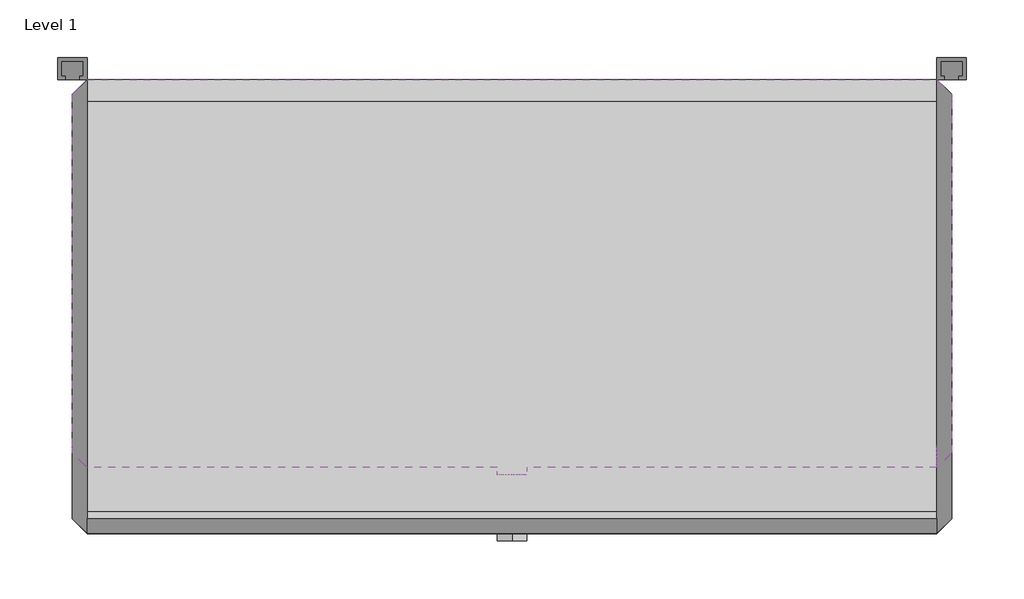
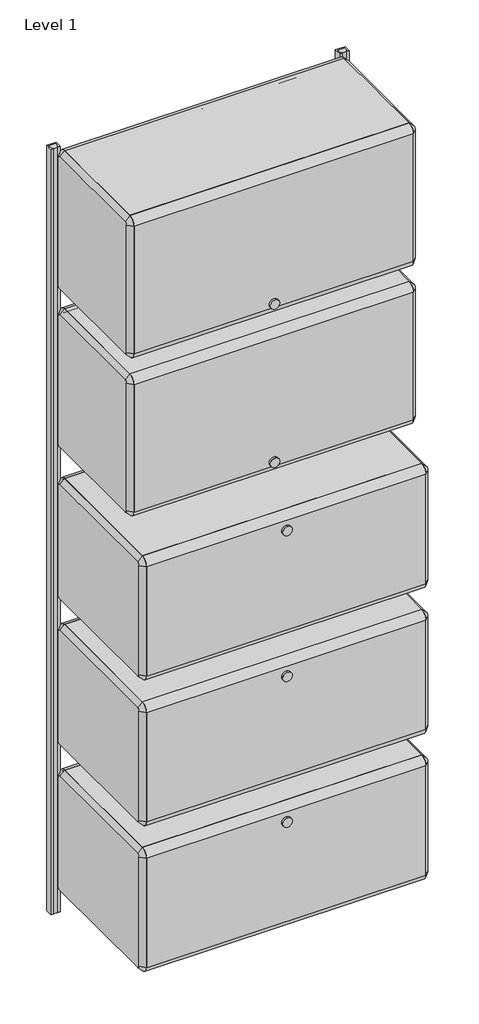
# One storey: 7 furniture elements.
"""IFC4 building model written with IfcOpenShell, lengths in millimetres."""

import ifcopenshell
import ifcopenshell.guid

model = None  # the IFC model being written
_history = None  # IfcOwnerHistory: only IFC2X3 demands one
_inside = {}  # id of a spatial element -> (the spatial element, [elements in it])
_under = {}  # id of a project, library or spatial element -> (it, [spatial elements below it])
_declared = {}  # id of a project -> (the project, [libraries it declares])
_typed = {}  # id of a type object -> (the type object, [elements of that type])
_made_of = {}  # id of a material, layer set ... -> (it, [elements and type objects made of it])


def new_model(schema):
    """Start an empty IFC model of exactly this schema.

    Asked for "IFC4X3", IfcOpenShell would pick the latest addendum, in which some entities
    have other attributes; the version numbers below select the first issue.
    IFC2X3 requires an IfcOwnerHistory on every rooted entity: one is made here for all.
    """
    global model, _history
    if schema == "IFC4X3":
        model = ifcopenshell.file(schema_version=(4, 3, 0, 0))
    else:
        model = ifcopenshell.file(schema=schema)
    _inside.clear()
    _under.clear()
    _declared.clear()
    _typed.clear()
    _made_of.clear()
    _history = None
    if model.schema == "IFC2X3":
        org = make("IfcOrganization", Name="unknown")
        user = make(
            "IfcPersonAndOrganization",
            ThePerson=make("IfcPerson", FamilyName="unknown"),
            TheOrganization=org,
        )
        app = make(
            "IfcApplication",
            ApplicationDeveloper=org,
            Version="unknown",
            ApplicationFullName="unknown",
            ApplicationIdentifier="unknown",
        )
        _history = make(
            "IfcOwnerHistory",
            OwningUser=user,
            OwningApplication=app,
            ChangeAction="ADDED",
            CreationDate=0,
        )
    return model


def make(cls, **values):
    """One entity of the class cls with the attributes given. An attribute that is None is left unset."""
    return model.create_entity(
        cls, **{name: value for name, value in values.items() if value is not None}
    )


def rooted(cls, **values):
    """An entity with a GlobalId (a new one), such as an element, a storey or a relation."""
    return make(cls, GlobalId=ifcopenshell.guid.new(), OwnerHistory=_history, **values)


def si_unit(unit_type, name, prefix=None):
    """IfcSIUnit, for example si_unit("LENGTHUNIT", "METRE", prefix="MILLI")."""
    return make("IfcSIUnit", UnitType=unit_type, Prefix=prefix, Name=name)


def assignment(units):
    """IfcUnitAssignment: the units of a project."""
    return None if units is None else make("IfcUnitAssignment", Units=units)


def point(xyz):
    """IfcCartesianPoint."""
    return None if xyz is None else make("IfcCartesianPoint", Coordinates=xyz)


def direction(xyz):
    """IfcDirection."""
    return None if xyz is None else make("IfcDirection", DirectionRatios=xyz)


def frame(location, z_axis=None, x_axis=None):
    """IfcAxis2Placement3D, a coordinate frame: its origin and axes. An axis left out is left unset."""
    return make(
        "IfcAxis2Placement3D",
        Location=point(location),
        Axis=direction(z_axis),
        RefDirection=direction(x_axis),
    )


def frame_2d(location, x_axis=None):
    """IfcAxis2Placement2D, a coordinate frame in the plane: its origin and x axis."""
    return make(
        "IfcAxis2Placement2D", Location=point(location), RefDirection=direction(x_axis)
    )


def origin():
    """The frame at (0, 0, 0) with its axes left unset."""
    return frame((0.0, 0.0, 0.0))


def place(relative_to, where):
    """IfcLocalPlacement: puts the frame where relative to a parent placement (None: the world)."""
    return make(
        "IfcLocalPlacement", PlacementRelTo=relative_to, RelativePlacement=where
    )


def context(
    kind, dimensions, precision=None, world=None, true_north=None, identifier=None
):
    """IfcGeometricRepresentationContext, for example the 3D "Model" context."""
    return make(
        "IfcGeometricRepresentationContext",
        ContextIdentifier=identifier,
        ContextType=kind,
        CoordinateSpaceDimension=dimensions,
        Precision=precision,
        WorldCoordinateSystem=world,
        TrueNorth=true_north,
    )


def project(units=None, contexts=None):
    """IfcProject with its units and contexts."""
    return rooted(
        "IfcProject",
        Name="project",
        RepresentationContexts=contexts,
        UnitsInContext=assignment(units),
    )


def spatial(cls, under=None, at=None, **own):
    """A site, building, storey or space (cls), placed at a placement, below another one or the project."""
    s = rooted(cls, ObjectPlacement=at, **own)
    if under is not None:
        _under.setdefault(under.id(), (under, []))[1].append(s)
    return s


def polyline(points):
    """IfcPolyline through the points."""
    return make("IfcPolyline", Points=[point(p) for p in points])


def circle_curve(where, radius):
    """IfcCircle in the frame where."""
    return make("IfcCircle", Position=where, Radius=radius)


def trimmed(basis, trim1, trim2, sense, master):
    """IfcTrimmedCurve: the piece of a basis curve between two trims."""
    return make(
        "IfcTrimmedCurve",
        BasisCurve=basis,
        Trim1=trim1,
        Trim2=trim2,
        SenseAgreement=sense,
        MasterRepresentation=master,
    )


def segment(curve, same_sense, transition):
    """IfcCompositeCurveSegment."""
    return make(
        "IfcCompositeCurveSegment",
        Transition=transition,
        SameSense=same_sense,
        ParentCurve=curve,
    )


def composite_curve(segments, self_intersect=None):
    """IfcCompositeCurve: segments joined end to end."""
    return make("IfcCompositeCurve", Segments=segments, SelfIntersect=self_intersect)


def outline(outer, holes=None, kind="AREA"):
    """IfcArbitraryClosedProfileDef: a profile drawn as a closed curve; with holes, ...WithVoids."""
    if holes is None:
        return make("IfcArbitraryClosedProfileDef", ProfileType=kind, OuterCurve=outer)
    return make(
        "IfcArbitraryProfileDefWithVoids",
        ProfileType=kind,
        OuterCurve=outer,
        InnerCurves=holes,
    )


def extrude(swept, where, along, depth):
    """IfcExtrudedAreaSolid: the profile swept, set in the frame where, extruded along a direction by depth."""
    return make(
        "IfcExtrudedAreaSolid",
        SweptArea=swept,
        Position=where,
        ExtrudedDirection=direction(along),
        Depth=depth,
    )


def shape(context_of_items, identifier, shape_type, items):
    """IfcShapeRepresentation: the items that make up one representation, for example the "Body"."""
    return make(
        "IfcShapeRepresentation",
        ContextOfItems=context_of_items,
        RepresentationIdentifier=identifier,
        RepresentationType=shape_type,
        Items=items,
    )


def source(mapping_origin, context_of_items, identifier, shape_type, items):
    """IfcRepresentationMap: a shape defined once, which mapped items show again and again."""
    return make(
        "IfcRepresentationMap",
        MappingOrigin=mapping_origin,
        MappedRepresentation=shape(context_of_items, identifier, shape_type, items),
    )


def transform(
    local_origin,
    x_axis=None,
    y_axis=None,
    z_axis=None,
    scale=None,
    scale2=None,
    scale3=None,
    uniform=True,
):
    """IfcCartesianTransformationOperator3D, or its non-uniform kind. x_axis, y_axis, z_axis: its Axis1, 2, 3."""
    if uniform:
        return make(
            "IfcCartesianTransformationOperator3D",
            Axis1=direction(x_axis),
            Axis2=direction(y_axis),
            LocalOrigin=point(local_origin),
            Scale=scale,
            Axis3=direction(z_axis),
        )
    return make(
        "IfcCartesianTransformationOperator3DnonUniform",
        Axis1=direction(x_axis),
        Axis2=direction(y_axis),
        LocalOrigin=point(local_origin),
        Scale=scale,
        Axis3=direction(z_axis),
        Scale2=scale2,
        Scale3=scale3,
    )


def mapped(mapping_source, mapping_target):
    """IfcMappedItem: shows the shape of a source again, moved by a transform."""
    return make(
        "IfcMappedItem", MappingSource=mapping_source, MappingTarget=mapping_target
    )


def made_of(thing, what):
    """Note that an element or type object is made of a material, layer set ...; save() writes the relation."""
    if what is not None:
        _made_of.setdefault(what.id(), (what, []))[1].append(thing)
    return thing


def element(
    cls,
    number,
    at=None,
    inside=None,
    cuts=None,
    type_object=None,
    material=None,
    context=None,
    identifier="Body",
    shape_type=None,
    held_by="IfcProductDefinitionShape",
    body=None,
    shapes=None,
    **own,
):
    """One element of the class cls, such as IfcWall. Its Tag is "e" and its number.

    at: its placement. inside: the storey or other place that contains it. cuts: it is an
    opening in that element (IfcRelVoidsElement). A single representation is given by context,
    identifier, shape_type and body (its items); several are given by shapes. held_by: the class
    of the entity that holds the representations. save() writes the other relations.
    """
    e = rooted(cls, Tag="e%d" % number, ObjectPlacement=at, **own)
    if body is not None:
        shapes = [shape(context, identifier, shape_type, body)]
    if shapes is not None:
        e.Representation = make(held_by, Representations=shapes)
    if inside is not None:
        _inside.setdefault(inside.id(), (inside, []))[1].append(e)
    if cuts is not None:
        rooted(
            "IfcRelVoidsElement", RelatingBuildingElement=cuts, RelatedOpeningElement=e
        )
    if type_object is not None:
        _typed.setdefault(type_object.id(), (type_object, []))[1].append(e)
    return made_of(e, material)


def aggregate(whole, parts):
    """IfcRelAggregates: a whole, such as a stair, and the parts it consists of."""
    return rooted("IfcRelAggregates", RelatingObject=whole, RelatedObjects=parts)


def save(model, path):
    """Write the relations noted so far, then the file.

    IfcRelAggregates (storeys below a building ...), IfcRelContainedInSpatialStructure (elements
    in a storey), IfcRelDefinesByType, IfcRelAssociatesMaterial and IfcRelDeclares: one each for
    every whole, place, type object, material and project.
    """
    for whole, parts in _under.values():
        aggregate(whole, parts)
    for where, things in _inside.values():
        rooted(
            "IfcRelContainedInSpatialStructure",
            RelatedElements=things,
            RelatingStructure=where,
        )
    for kind, things in _typed.values():
        rooted("IfcRelDefinesByType", RelatedObjects=things, RelatingType=kind)
    for what, things in _made_of.values():
        rooted("IfcRelAssociatesMaterial", RelatedObjects=things, RelatingMaterial=what)
    for by, libraries in _declared.values():
        rooted("IfcRelDeclares", RelatingContext=by, RelatedDefinitions=libraries)
    model.write(path)


def plane_surface(at):
    """IfcPlane: the flat surface through the origin of the frame at, square to its z axis."""
    return make("IfcPlane", Position=at)


def revolved_surface(curve, axis_point, axis_direction):
    """IfcSurfaceOfRevolution: the curve turned about the line through axis_point along axis_direction."""
    return make(
        "IfcSurfaceOfRevolution",
        SweptCurve=make("IfcArbitraryOpenProfileDef", ProfileType="CURVE", Curve=curve),
        AxisPosition=make("IfcAxis1Placement", Location=point(axis_point), Axis=direction(axis_direction)),
    )


def advanced_brep(points, edges, surfaces, faces):
    """IfcAdvancedBrep: a solid bounded by faces that lie on surfaces and meet in shared edges.

    An edge is (start, end): straight between two places in points (the first is 0);
    or (start, end, curve); or (start, end, curve, False) where it runs against its curve.
    A face is (place in surfaces, loops), or (place, loops, False) where it looks against
    its surface's normal. A loop lists edges by number (the first is 1), with a minus sign
    where the edge is run from its end to its start. The first loop is the outer one.
    """
    corners = [point(p) for p in points]
    vertices = [make("IfcVertexPoint", VertexGeometry=c) for c in corners]
    made = []
    for start, end, *more in edges:
        made.append(
            make(
                "IfcEdgeCurve",
                EdgeStart=vertices[start],
                EdgeEnd=vertices[end],
                EdgeGeometry=more[0] if more else make("IfcPolyline", Points=[corners[start], corners[end]]),
                SameSense=more[1] if len(more) > 1 else True,
            )
        )
    hull = []
    for where, loops, *sense in faces:
        bounds = []
        for j, loop in enumerate(loops):
            ring = [make("IfcOrientedEdge", EdgeElement=made[abs(k) - 1], Orientation=k > 0) for k in loop]
            bounds.append(
                make(
                    "IfcFaceOuterBound" if j == 0 else "IfcFaceBound",
                    Bound=make("IfcEdgeLoop", EdgeList=ring),
                    Orientation=True,
                )
            )
        hull.append(make("IfcAdvancedFace", Bounds=bounds, FaceSurface=surfaces[where], SameSense=sense[0] if sense else True))
    return make("IfcAdvancedBrep", Outer=make("IfcClosedShell", CfsFaces=hull))


def furniture_2b6507ba(model_context):
    return source(origin(), model_context, "Body", "SolidModel", [
        extrude(outline(composite_curve([segment(polyline([(-136.525, 1781.556), (-136.525, 1794.256), (161.925, 1794.256)]), True, "CONTINUOUS"), segment(trimmed(circle_curve(frame_2d((161.925, 1775.206)), 19.05), [point((161.925, 1794.256))], [point((180.975, 1775.206))], False, "CARTESIAN"), True, "CONTINUOUS"), segment(polyline([(180.975, 1775.206), (168.275, 1775.206)]), True, "CONTINUOUS"), segment(trimmed(circle_curve(frame_2d((161.925, 1775.206)), 6.35), [point((168.275, 1775.206))], [point((161.925, 1781.556))], True, "CARTESIAN"), True, "CONTINUOUS"), segment(polyline([(161.925, 1781.556), (-136.525, 1781.556)]), True, "CONTINUOUS")], self_intersect=False)), frame((-368.3, 0.0, 0.0), z_axis=(1.0, 0.0, 0.0), x_axis=(0.0, 1.0, 0.0)), (0.0, 0.0, 1.0), 736.6),
        extrude(outline(composite_curve([segment(trimmed(circle_curve(frame_2d((-136.525, 1775.206)), 19.05), [point((-155.575, 1775.206))], [point((-136.525, 1794.256))], False, "CARTESIAN"), True, "CONTINUOUS"), segment(polyline([(-136.525, 1794.256), (-136.525, 1781.556)]), True, "CONTINUOUS"), segment(trimmed(circle_curve(frame_2d((-136.525, 1775.206)), 6.35), [point((-136.525, 1781.556))], [point((-142.875, 1775.206))], True, "CARTESIAN"), True, "CONTINUOUS"), segment(polyline([(-142.875, 1775.206), (-142.875, 1419.606)]), True, "CONTINUOUS"), segment(trimmed(circle_curve(frame_2d((-136.525, 1419.606)), 6.35), [point((-142.875, 1419.606))], [point((-136.525, 1413.256))], True, "CARTESIAN"), True, "CONTINUOUS"), segment(polyline([(-136.525, 1413.256), (-136.525, 1400.556)]), True, "CONTINUOUS"), segment(trimmed(circle_curve(frame_2d((-136.525, 1419.606)), 19.05), [point((-136.525, 1400.556))], [point((-155.575, 1419.606))], False, "CARTESIAN"), True, "CONTINUOUS"), segment(polyline([(-155.575, 1419.606), (-155.575, 1775.206)]), True, "CONTINUOUS")], self_intersect=False)), frame((-368.3, 0.0, 0.0), z_axis=(1.0, 0.0, 0.0), x_axis=(0.0, 1.0, 0.0)), (0.0, 0.0, 1.0), 736.6),
        extrude(outline(composite_curve([segment(trimmed(circle_curve(frame_2d((1432.2678906, 0.0201199)), 12.7253951), [point((1432.2678906, 12.745515))], [point((1432.2678906, -12.7052752))], False, "CARTESIAN"), True, "CONTINUOUS"), segment(trimmed(circle_curve(frame_2d((1432.2678906, 0.0201199)), 12.7253951), [point((1432.2678906, -12.7052752))], [point((1432.2678906, 12.745515))], False, "CARTESIAN"), True, "CONTINUOUS")], self_intersect=False)), frame((0.0, -161.925, 0.0), z_axis=(0.0, 1.0, 0.0), x_axis=(0.0, 0.0, 1.0)), (0.0, 0.0, 1.0), 6.35),
        extrude(outline(polyline([(-136.525, 1438.656), (161.925, 1438.656), (161.925, 1476.756), (174.625, 1476.756), (174.625, 1473.581), (165.1, 1473.581), (165.1, 1435.481), (-133.35, 1435.481), (-133.35, 1416.431), (-136.525, 1416.431), (-136.525, 1438.656)])), frame((-368.3, 0.0, 0.0), z_axis=(1.0, 0.0, 0.0), x_axis=(0.0, 1.0, 0.0)), (0.0, 0.0, 1.0), 736.6),
        advanced_brep(
        [(381.0, 161.925, 1781.556), (381.0, -136.525, 1781.556), (381.0, -142.875, 1775.206), (381.0, -142.875, 1419.606), (381.0, -136.525, 1413.256), (381.0, 161.925, 1413.256), (381.0, 168.275, 1419.606), (381.0, 168.275, 1775.206), (368.3, 161.925, 1794.256), (368.3, 180.975, 1775.206), (368.3, 180.975, 1419.606), (368.3, 161.925, 1400.556), (368.3, -136.525, 1400.556), (368.3, -155.575, 1419.606), (368.3, -155.575, 1775.206), (368.3, -136.525, 1794.256)],
        [
            (0, 1),
            (1, 2, circle_curve(frame((381.0, -136.525, 1775.206), z_axis=(1.0, 6.490807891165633e-12, -6.586731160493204e-12), x_axis=(6.586694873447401e-12, 0.0, 1.0)), 6.35)),
            (2, 3),
            (3, 4, circle_curve(frame((381.0, -136.525, 1419.606), z_axis=(1.0, 3.3746339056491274e-12, 3.3679725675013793e-12), x_axis=(3.3745997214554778e-12, -1.0, 0.0)), 6.35)),
            (4, 5),
            (5, 6, circle_curve(frame((381.0, 161.925, 1419.606), z_axis=(1.0, 3.378630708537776e-12, -3.3892888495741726e-12), x_axis=(-3.38935859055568e-12, 0.0, -1.0)), 6.35)),
            (6, 7),
            (7, 0, circle_curve(frame((381.0, 161.925, 1775.206), z_axis=(1.0, 6.482814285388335e-12, 6.3948846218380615e-12), x_axis=(-6.482754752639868e-12, 1.0, 0.0)), 6.35)),
            (8, 9, circle_curve(frame((368.3, 161.925, 1775.206), z_axis=(-1.0, -6.482814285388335e-12, -6.3948846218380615e-12), x_axis=(-6.482754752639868e-12, 1.0, 0.0)), 19.05)),
            (9, 10),
            (10, 11, circle_curve(frame((368.3, 161.925, 1419.606), z_axis=(-1.0, -3.378630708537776e-12, 3.3892888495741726e-12), x_axis=(-3.38935859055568e-12, 0.0, -1.0)), 19.05)),
            (11, 12),
            (12, 13, circle_curve(frame((368.3, -136.525, 1419.606), z_axis=(-1.0, -3.3746339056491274e-12, -3.3679725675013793e-12), x_axis=(3.3745997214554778e-12, -1.0, 0.0)), 19.05)),
            (13, 14),
            (14, 15, circle_curve(frame((368.3, -136.525, 1775.206), z_axis=(-1.0, -6.490807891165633e-12, 6.586731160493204e-12), x_axis=(6.586694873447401e-12, 0.0, 1.0)), 19.05)),
            (15, 8),
            (15, 1),
            (0, 8),
            (14, 2),
            (13, 3),
            (12, 4),
            (11, 5),
            (10, 6),
            (9, 7),
        ],
        [
            plane_surface(frame((381.0, 12.7, 1597.406), z_axis=(1.0, 0.0, 0.0), x_axis=(0.0, -1.0, 0.0))),
            plane_surface(frame((368.3, 12.7, 1597.406), z_axis=(-1.0, 0.0, 0.0), x_axis=(0.0, -1.0, 0.0))),
            plane_surface(frame((368.3, 12.7, 1794.256), z_axis=(0.707106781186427, 0.0, 0.7071067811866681), x_axis=(0.0, -1.0, 0.0))),
            revolved_surface(polyline([(381.00000000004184, -136.525, 1781.5559999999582), (368.3, -136.525, 1794.256)]), (387.35, -136.525, 1775.206), (-1.0, -6.490807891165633e-12, 6.586731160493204e-12)),
            plane_surface(frame((368.3, -155.575, 1597.406), z_axis=(0.7071067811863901, -0.7071067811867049, 0.0), x_axis=(0.0, 0.0, -1.0))),
            revolved_surface(polyline([(381.00000000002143, -142.8749999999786, 1419.606), (368.3, -155.575, 1419.606)]), (387.35, -136.525, 1419.606), (-1.0, -3.3746339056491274e-12, -3.3679725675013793e-12)),
            plane_surface(frame((368.3, 12.7, 1400.556), z_axis=(0.7071067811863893, 0.0, -0.7071067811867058), x_axis=(0.0, 1.0, 0.0))),
            revolved_surface(polyline([(381.0, 161.925, 1413.256), (368.29999999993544, 161.925, 1400.5559999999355)]), (387.35, 161.925, 1419.606), (-1.0, -3.378630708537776e-12, 3.3892888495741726e-12)),
            plane_surface(frame((368.3, 180.975, 1597.406), z_axis=(0.7071067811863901, 0.7071067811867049, 0.0), x_axis=(0.0, 0.0, 1.0))),
            revolved_surface(polyline([(381.0, 168.27500000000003, 1775.206), (368.2999999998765, 180.9750000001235, 1775.206)]), (387.35, 161.925, 1775.206), (-1.0, -6.482814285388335e-12, -6.3948846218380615e-12)),
        ],
        [
            (0, [[1, 2, 3, 4, 5, 6, 7, 8]]),
            (1, [[9, 10, 11, 12, 13, 14, 15, 16]]),
            (2, [[-16, 17, -1, 18]]),
            (3, [[-15, 19, -2, -17]]),
            (4, [[-14, 20, -3, -19]]),
            (5, [[-13, 21, -4, -20]]),
            (6, [[-12, 22, -5, -21]]),
            (7, [[-11, 23, -6, -22]]),
            (8, [[-10, 24, -7, -23]]),
            (9, [[-9, -18, -8, -24]]),
        ],
    ),
        advanced_brep(
        [(-381.0, -136.525, 1781.556), (-381.0, 161.925, 1781.556), (-381.0, 168.275, 1775.206), (-381.0, 168.275, 1419.606), (-381.0, 161.925, 1413.256), (-381.0, -136.525, 1413.256), (-381.0, -142.875, 1419.606), (-381.0, -142.875, 1775.206), (-368.3, -136.525, 1794.256), (-368.3, -155.575, 1775.206), (-368.3, -155.575, 1419.606), (-368.3, -136.525, 1400.556), (-368.3, 161.925, 1400.556), (-368.3, 180.975, 1419.606), (-368.3, 180.975, 1775.206), (-368.3, 161.925, 1794.256)],
        [
            (0, 1),
            (1, 2, circle_curve(frame((-381.0, 161.925, 1775.206), z_axis=(-1.0, 3.3653080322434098e-12, 3.453237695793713e-12), x_axis=(3.453261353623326e-12, 0.0, 1.0)), 6.35)),
            (2, 3),
            (3, 4, circle_curve(frame((-381.0, 161.925, 1419.606), z_axis=(-1.0, 0.0, 0.0), x_axis=(0.0, 1.0, 0.0)), 6.35)),
            (4, 5),
            (5, 6, circle_curve(frame((-381.0, -136.525, 1419.606), z_axis=(-1.0, 0.0, 0.0), x_axis=(0.0, 0.0, -1.0)), 6.35)),
            (6, 7),
            (7, 0, circle_curve(frame((-381.0, -136.525, 1775.206), z_axis=(-1.0, 3.3812952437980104e-12, -3.304023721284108e-12), x_axis=(-3.381351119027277e-12, -1.0, 0.0)), 6.35)),
            (8, 9, circle_curve(frame((-368.3, -136.525, 1775.206), z_axis=(1.0, -3.3812952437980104e-12, 3.304023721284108e-12), x_axis=(-3.381351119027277e-12, -1.0, 0.0)), 19.05)),
            (9, 10),
            (10, 11, circle_curve(frame((-368.3, -136.525, 1419.606), z_axis=(1.0, 0.0, 0.0), x_axis=(0.0, 0.0, -1.0)), 19.05)),
            (11, 12),
            (12, 13, circle_curve(frame((-368.3, 161.925, 1419.606), z_axis=(1.0, 0.0, 0.0), x_axis=(0.0, 1.0, 0.0)), 19.05)),
            (13, 14),
            (14, 15, circle_curve(frame((-368.3, 161.925, 1775.206), z_axis=(1.0, -3.3653080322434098e-12, -3.453237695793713e-12), x_axis=(3.453261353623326e-12, 0.0, 1.0)), 19.05)),
            (15, 8),
            (15, 1),
            (0, 8),
            (14, 2),
            (13, 3),
            (12, 4),
            (11, 5),
            (10, 6),
            (9, 7),
        ],
        [
            plane_surface(frame((-381.0, 12.7, 1597.406), z_axis=(-1.0, 0.0, 0.0), x_axis=(0.0, -1.0, 0.0))),
            plane_surface(frame((-368.3, 12.7, 1597.406), z_axis=(1.0, 0.0, 0.0), x_axis=(0.0, -1.0, 0.0))),
            plane_surface(frame((-368.3, 12.7, 1794.256), z_axis=(-0.7071067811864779, 0.0, 0.7071067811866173), x_axis=(0.0, 1.0, 0.0))),
            revolved_surface(polyline([(-381.0, 161.925, 1781.556), (-368.29999999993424, 161.925, 1794.2560000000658)]), (-387.35, 161.925, 1775.206), (1.0, -3.3653080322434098e-12, -3.453237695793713e-12)),
            plane_surface(frame((-368.3, 180.975, 1597.406), z_axis=(-0.7071067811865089, 0.7071067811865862, 0.0), x_axis=(0.0, 0.0, -1.0))),
            revolved_surface(polyline([(-381.0, 168.27500000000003, 1419.606), (-368.3, 180.975, 1419.606)]), (-387.35, 161.925, 1419.606), (1.0, 0.0, 0.0)),
            plane_surface(frame((-368.3, 12.7, 1400.556), z_axis=(-0.7071067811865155, 0.0, -0.7071067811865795), x_axis=(0.0, -1.0, 0.0))),
            revolved_surface(polyline([(-381.0, -136.525, 1413.256), (-368.3, -136.525, 1400.556)]), (-387.35, -136.525, 1419.606), (1.0, 0.0, 0.0)),
            plane_surface(frame((-368.3, -155.575, 1597.406), z_axis=(-0.7071067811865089, -0.7071067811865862, 0.0), x_axis=(0.0, 0.0, 1.0))),
            revolved_surface(polyline([(-381.0000000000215, -142.87499999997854, 1775.206), (-368.3, -155.575, 1775.206)]), (-387.35, -136.525, 1775.206), (1.0, -3.3812952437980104e-12, 3.304023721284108e-12)),
        ],
        [
            (0, [[1, 2, 3, 4, 5, 6, 7, 8]]),
            (1, [[9, 10, 11, 12, 13, 14, 15, 16]]),
            (2, [[-16, 17, -1, 18]]),
            (3, [[-15, 19, -2, -17]]),
            (4, [[-14, 20, -3, -19]]),
            (5, [[-13, 21, -4, -20]]),
            (6, [[-12, 22, -5, -21]]),
            (7, [[-11, 23, -6, -22]]),
            (8, [[-10, 24, -7, -23]]),
            (9, [[-9, -18, -8, -24]]),
        ],
    ),
    ])


def furniture_f00700a8(model_context):
    return source(origin(), model_context, "Body", "SolidModel", [
        extrude(outline(composite_curve([segment(polyline([(-136.525, 2222.5), (-136.525, 2235.2), (161.925, 2235.2)]), True, "CONTINUOUS"), segment(trimmed(circle_curve(frame_2d((161.925, 2216.15)), 19.05), [point((161.925, 2235.2))], [point((180.975, 2216.15))], False, "CARTESIAN"), True, "CONTINUOUS"), segment(polyline([(180.975, 2216.15), (168.275, 2216.15)]), True, "CONTINUOUS"), segment(trimmed(circle_curve(frame_2d((161.925, 2216.15)), 6.35), [point((168.275, 2216.15))], [point((161.925, 2222.5))], True, "CARTESIAN"), True, "CONTINUOUS"), segment(polyline([(161.925, 2222.5), (-136.525, 2222.5)]), True, "CONTINUOUS")], self_intersect=False)), frame((-368.3, 0.0, 0.0), z_axis=(1.0, 0.0, 0.0), x_axis=(0.0, 1.0, 0.0)), (0.0, 0.0, 1.0), 736.6),
        extrude(outline(composite_curve([segment(trimmed(circle_curve(frame_2d((-136.525, 2216.15)), 19.05), [point((-155.575, 2216.15))], [point((-136.525, 2235.2))], False, "CARTESIAN"), True, "CONTINUOUS"), segment(polyline([(-136.525, 2235.2), (-136.525, 2222.5)]), True, "CONTINUOUS"), segment(trimmed(circle_curve(frame_2d((-136.525, 2216.15)), 6.35), [point((-136.525, 2222.5))], [point((-142.875, 2216.15))], True, "CARTESIAN"), True, "CONTINUOUS"), segment(polyline([(-142.875, 2216.15), (-142.875, 1860.55)]), True, "CONTINUOUS"), segment(trimmed(circle_curve(frame_2d((-136.525, 1860.55)), 6.35), [point((-142.875, 1860.55))], [point((-136.525, 1854.2))], True, "CARTESIAN"), True, "CONTINUOUS"), segment(polyline([(-136.525, 1854.2), (-136.525, 1841.5)]), True, "CONTINUOUS"), segment(trimmed(circle_curve(frame_2d((-136.525, 1860.55)), 19.05), [point((-136.525, 1841.5))], [point((-155.575, 1860.55))], False, "CARTESIAN"), True, "CONTINUOUS"), segment(polyline([(-155.575, 1860.55), (-155.575, 2216.15)]), True, "CONTINUOUS")], self_intersect=False)), frame((-368.3, 0.0, 0.0), z_axis=(1.0, 0.0, 0.0), x_axis=(0.0, 1.0, 0.0)), (0.0, 0.0, 1.0), 736.6),
        extrude(outline(composite_curve([segment(trimmed(circle_curve(frame_2d((1873.2118906, 0.0201199)), 12.7253951), [point((1873.2118906, 12.745515))], [point((1873.2118906, -12.7052752))], False, "CARTESIAN"), True, "CONTINUOUS"), segment(trimmed(circle_curve(frame_2d((1873.2118906, 0.0201199)), 12.7253951), [point((1873.2118906, -12.7052752))], [point((1873.2118906, 12.745515))], False, "CARTESIAN"), True, "CONTINUOUS")], self_intersect=False)), frame((0.0, -161.925, 0.0), z_axis=(0.0, 1.0, 0.0), x_axis=(0.0, 0.0, 1.0)), (0.0, 0.0, 1.0), 6.35),
        extrude(outline(polyline([(-136.525, 1879.6), (161.925, 1879.6), (161.925, 1917.7), (174.625, 1917.7), (174.625, 1914.525), (165.1, 1914.525), (165.1, 1876.425), (-133.35, 1876.425), (-133.35, 1857.375), (-136.525, 1857.375), (-136.525, 1879.6)])), frame((-368.3, 0.0, 0.0), z_axis=(1.0, 0.0, 0.0), x_axis=(0.0, 1.0, 0.0)), (0.0, 0.0, 1.0), 736.6),
        advanced_brep(
        [(381.0, 161.925, 2222.5), (381.0, -136.525, 2222.5), (381.0, -142.875, 2216.15), (381.0, -142.875, 1860.55), (381.0, -136.525, 1854.2), (381.0, 161.925, 1854.2), (381.0, 168.275, 1860.55), (381.0, 168.275, 2216.15), (368.3, 161.925, 2235.2), (368.3, 180.975, 2216.15), (368.3, 180.975, 1860.55), (368.3, 161.925, 1841.5), (368.3, -136.525, 1841.5), (368.3, -155.575, 1860.55), (368.3, -155.575, 2216.15), (368.3, -136.525, 2235.2)],
        [
            (0, 1),
            (1, 2, circle_curve(frame((381.0, -136.525, 2216.15), z_axis=(1.0, 6.490807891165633e-12, -6.586731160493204e-12), x_axis=(6.586694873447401e-12, 0.0, 1.0)), 6.35)),
            (2, 3),
            (3, 4, circle_curve(frame((381.0, -136.525, 1860.55), z_axis=(1.0, 3.3733016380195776e-12, 3.3892888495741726e-12), x_axis=(3.373343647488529e-12, -1.0, 0.0)), 6.35)),
            (4, 5),
            (5, 6, circle_curve(frame((381.0, 161.925, 1860.55), z_axis=(1.0, 3.378630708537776e-12, -3.3892888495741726e-12), x_axis=(-3.38935859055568e-12, 0.0, -1.0)), 6.35)),
            (6, 7),
            (7, 0, circle_curve(frame((381.0, 161.925, 2216.15), z_axis=(1.0, 6.482814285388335e-12, 6.3948846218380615e-12), x_axis=(-6.482754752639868e-12, 1.0, 0.0)), 6.35)),
            (8, 9, circle_curve(frame((368.3, 161.925, 2216.15), z_axis=(-1.0, -6.482814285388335e-12, -6.3948846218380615e-12), x_axis=(-6.482754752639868e-12, 1.0, 0.0)), 19.05)),
            (9, 10),
            (10, 11, circle_curve(frame((368.3, 161.925, 1860.55), z_axis=(-1.0, -3.378630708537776e-12, 3.3892888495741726e-12), x_axis=(-3.38935859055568e-12, 0.0, -1.0)), 19.05)),
            (11, 12),
            (12, 13, circle_curve(frame((368.3, -136.525, 1860.55), z_axis=(-1.0, -3.3733016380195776e-12, -3.3892888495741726e-12), x_axis=(3.373343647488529e-12, -1.0, 0.0)), 19.05)),
            (13, 14),
            (14, 15, circle_curve(frame((368.3, -136.525, 2216.15), z_axis=(-1.0, -6.490807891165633e-12, 6.586731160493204e-12), x_axis=(6.586694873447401e-12, 0.0, 1.0)), 19.05)),
            (15, 8),
            (15, 1),
            (0, 8),
            (14, 2),
            (13, 3),
            (12, 4),
            (11, 5),
            (10, 6),
            (9, 7),
        ],
        [
            plane_surface(frame((381.0, 12.7, 2038.35), z_axis=(1.0, 0.0, 0.0), x_axis=(0.0, -1.0, 0.0))),
            plane_surface(frame((368.3, 12.7, 2038.35), z_axis=(-1.0, 0.0, 0.0), x_axis=(0.0, -1.0, 0.0))),
            plane_surface(frame((368.3, 12.7, 2235.2), z_axis=(0.707106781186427, 0.0, 0.7071067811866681), x_axis=(0.0, -1.0, 0.0))),
            revolved_surface(polyline([(381.00000000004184, -136.525, 2222.499999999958), (368.3, -136.525, 2235.2)]), (387.35, -136.525, 2216.15), (-1.0, -6.490807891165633e-12, 6.586731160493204e-12)),
            plane_surface(frame((368.3, -155.575, 2038.35), z_axis=(0.7071067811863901, -0.7071067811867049, 0.0), x_axis=(0.0, 0.0, -1.0))),
            revolved_surface(polyline([(381.00000000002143, -142.8749999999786, 1860.55), (368.2999999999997, -155.5750000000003, 1860.55)]), (387.35, -136.525, 1860.55), (-1.0, -3.3733016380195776e-12, -3.3892888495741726e-12)),
            plane_surface(frame((368.3, 12.7, 1841.5), z_axis=(0.7071067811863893, 0.0, -0.7071067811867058), x_axis=(0.0, 1.0, 0.0))),
            revolved_surface(polyline([(381.0, 161.925, 1854.2), (368.29999999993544, 161.925, 1841.4999999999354)]), (387.35, 161.925, 1860.55), (-1.0, -3.378630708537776e-12, 3.3892888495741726e-12)),
            plane_surface(frame((368.3, 180.975, 2038.35), z_axis=(0.7071067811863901, 0.7071067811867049, 0.0), x_axis=(0.0, 0.0, 1.0))),
            revolved_surface(polyline([(381.0, 168.27500000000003, 2216.15), (368.2999999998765, 180.9750000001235, 2216.15)]), (387.35, 161.925, 2216.15), (-1.0, -6.482814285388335e-12, -6.3948846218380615e-12)),
        ],
        [
            (0, [[1, 2, 3, 4, 5, 6, 7, 8]]),
            (1, [[9, 10, 11, 12, 13, 14, 15, 16]]),
            (2, [[-16, 17, -1, 18]]),
            (3, [[-15, 19, -2, -17]]),
            (4, [[-14, 20, -3, -19]]),
            (5, [[-13, 21, -4, -20]]),
            (6, [[-12, 22, -5, -21]]),
            (7, [[-11, 23, -6, -22]]),
            (8, [[-10, 24, -7, -23]]),
            (9, [[-9, -18, -8, -24]]),
        ],
    ),
        advanced_brep(
        [(-381.0, -136.525, 2222.5), (-381.0, 161.925, 2222.5), (-381.0, 168.275, 2216.15), (-381.0, 168.275, 1860.55), (-381.0, 161.925, 1854.2), (-381.0, -136.525, 1854.2), (-381.0, -142.875, 1860.55), (-381.0, -142.875, 2216.15), (-368.3, -136.525, 2235.2), (-368.3, -155.575, 2216.15), (-368.3, -155.575, 1860.55), (-368.3, -136.525, 1841.5), (-368.3, 161.925, 1841.5), (-368.3, 180.975, 1860.55), (-368.3, 180.975, 2216.15), (-368.3, 161.925, 2235.2)],
        [
            (0, 1),
            (1, 2, circle_curve(frame((-381.0, 161.925, 2216.15), z_axis=(-1.0, 3.3653080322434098e-12, 3.431921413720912e-12), x_axis=(3.431908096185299e-12, 0.0, 1.0)), 6.35)),
            (2, 3),
            (3, 4, circle_curve(frame((-381.0, 161.925, 1860.55), z_axis=(-1.0, 0.0, 0.0), x_axis=(0.0, 1.0, 0.0)), 6.35)),
            (4, 5),
            (5, 6, circle_curve(frame((-381.0, -136.525, 1860.55), z_axis=(-1.0, 0.0, 0.0), x_axis=(0.0, 0.0, -1.0)), 6.35)),
            (6, 7),
            (7, 0, circle_curve(frame((-381.0, -136.525, 2216.15), z_axis=(-1.0, 3.3812952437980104e-12, -3.3253400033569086e-12), x_axis=(-3.381351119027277e-12, -1.0, 0.0)), 6.35)),
            (8, 9, circle_curve(frame((-368.3, -136.525, 2216.15), z_axis=(1.0, -3.3812952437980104e-12, 3.3253400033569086e-12), x_axis=(-3.381351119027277e-12, -1.0, 0.0)), 19.05)),
            (9, 10),
            (10, 11, circle_curve(frame((-368.3, -136.525, 1860.55), z_axis=(1.0, 0.0, 0.0), x_axis=(0.0, 0.0, -1.0)), 19.05)),
            (11, 12),
            (12, 13, circle_curve(frame((-368.3, 161.925, 1860.55), z_axis=(1.0, 0.0, 0.0), x_axis=(0.0, 1.0, 0.0)), 19.05)),
            (13, 14),
            (14, 15, circle_curve(frame((-368.3, 161.925, 2216.15), z_axis=(1.0, -3.3653080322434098e-12, -3.431921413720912e-12), x_axis=(3.431908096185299e-12, 0.0, 1.0)), 19.05)),
            (15, 8),
            (15, 1),
            (0, 8),
            (14, 2),
            (13, 3),
            (12, 4),
            (11, 5),
            (10, 6),
            (9, 7),
        ],
        [
            plane_surface(frame((-381.0, 12.7, 2038.35), z_axis=(-1.0, 0.0, 0.0), x_axis=(0.0, -1.0, 0.0))),
            plane_surface(frame((-368.3, 12.7, 2038.35), z_axis=(1.0, 0.0, 0.0), x_axis=(0.0, -1.0, 0.0))),
            plane_surface(frame((-368.3, 12.7, 2235.2), z_axis=(-0.7071067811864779, 0.0, 0.7071067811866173), x_axis=(0.0, 1.0, 0.0))),
            revolved_surface(polyline([(-381.0, 161.925, 2222.5), (-368.29999999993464, 161.925, 2235.2000000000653)]), (-387.35, 161.925, 2216.15), (1.0, -3.3653080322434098e-12, -3.431921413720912e-12)),
            plane_surface(frame((-368.3, 180.975, 2038.35), z_axis=(-0.7071067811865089, 0.7071067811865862, 0.0), x_axis=(0.0, 0.0, -1.0))),
            revolved_surface(polyline([(-381.0, 168.27500000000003, 1860.55), (-368.3, 180.975, 1860.55)]), (-387.35, 161.925, 1860.55), (1.0, 0.0, 0.0)),
            plane_surface(frame((-368.3, 12.7, 1841.5), z_axis=(-0.7071067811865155, 0.0, -0.7071067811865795), x_axis=(0.0, -1.0, 0.0))),
            revolved_surface(polyline([(-381.0, -136.525, 1854.2), (-368.3, -136.525, 1841.5)]), (-387.35, -136.525, 1860.55), (1.0, 0.0, 0.0)),
            plane_surface(frame((-368.3, -155.575, 2038.35), z_axis=(-0.7071067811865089, -0.7071067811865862, 0.0), x_axis=(0.0, 0.0, 1.0))),
            revolved_surface(polyline([(-381.0000000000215, -142.87499999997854, 2216.15), (-368.3, -155.575, 2216.15)]), (-387.35, -136.525, 2216.15), (1.0, -3.3812952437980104e-12, 3.3253400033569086e-12)),
        ],
        [
            (0, [[1, 2, 3, 4, 5, 6, 7, 8]]),
            (1, [[9, 10, 11, 12, 13, 14, 15, 16]]),
            (2, [[-16, 17, -1, 18]]),
            (3, [[-15, 19, -2, -17]]),
            (4, [[-14, 20, -3, -19]]),
            (5, [[-13, 21, -4, -20]]),
            (6, [[-12, 22, -5, -21]]),
            (7, [[-11, 23, -6, -22]]),
            (8, [[-10, 24, -7, -23]]),
            (9, [[-9, -18, -8, -24]]),
        ],
    ),
    ])


def furniture_1f80d258(model_context):
    return source(origin(), model_context, "Body", "SolidModel", [
        extrude(outline(polyline([(368.3, -146.0499879), (368.3, -165.1), (-368.3, -165.1), (-368.3, -146.0499879), (368.3, -146.0499879)])), frame((0.0, 0.0, 495.3), z_axis=(0.0, 0.0, 1.0), x_axis=(1.0, 0.0, 0.0)), (0.0, 0.0, 1.0), 9.525),
        extrude(outline(polyline([(368.3, 190.5), (368.3, -165.1), (-368.3, -165.1), (-368.3, 190.5), (368.3, 190.5)])), frame((0.0, 0.0, 165.1), z_axis=(0.0, 0.0, 1.0), x_axis=(1.0, 0.0, 0.0)), (0.0, 0.0, 1.0), 3.175),
        extrude(outline(composite_curve([segment(polyline([(-165.1, 504.825), (-165.1, 508.0), (190.5, 508.0)]), True, "CONTINUOUS"), segment(trimmed(circle_curve(frame_2d((190.5, 488.95)), 19.05), [point((190.5, 508.0))], [point((209.55, 488.95))], False, "CARTESIAN"), True, "CONTINUOUS"), segment(polyline([(209.55, 488.95), (203.2, 488.95)]), True, "CONTINUOUS"), segment(trimmed(circle_curve(frame_2d((187.8607088, 489.6960671)), 15.3574239), [point((203.2, 488.95))], [point((190.5, 504.825))], True, "CARTESIAN"), True, "CONTINUOUS"), segment(polyline([(190.5, 504.825), (-165.1, 504.825)]), True, "CONTINUOUS")], self_intersect=False)), frame((-368.3, 0.0, 0.0), z_axis=(1.0, 0.0, 0.0), x_axis=(0.0, 1.0, 0.0)), (0.0, 0.0, 1.0), 736.6),
        extrude(outline(composite_curve([segment(trimmed(circle_curve(frame_2d((-165.1, 488.95)), 19.05), [point((-184.15, 488.95))], [point((-165.1, 508.0))], False, "CARTESIAN"), True, "CONTINUOUS"), segment(polyline([(-165.1, 508.0), (-165.1, 495.3)]), True, "CONTINUOUS"), segment(trimmed(circle_curve(frame_2d((-165.1, 488.95)), 6.35), [point((-165.1, 495.3))], [point((-171.45, 488.95))], True, "CARTESIAN"), True, "CONTINUOUS"), segment(polyline([(-171.45, 488.95), (-171.45, 184.15)]), True, "CONTINUOUS"), segment(trimmed(circle_curve(frame_2d((-165.1, 184.15)), 6.35), [point((-171.45, 184.15))], [point((-165.1, 177.8))], True, "CARTESIAN"), True, "CONTINUOUS"), segment(polyline([(-165.1, 177.8), (-165.1, 165.1)]), True, "CONTINUOUS"), segment(trimmed(circle_curve(frame_2d((-165.1, 184.15)), 19.05), [point((-165.1, 165.1))], [point((-184.15, 184.15))], False, "CARTESIAN"), True, "CONTINUOUS"), segment(polyline([(-184.15, 184.15), (-184.15, 488.95)]), True, "CONTINUOUS")], self_intersect=False)), frame((-368.3, 0.0, 0.0), z_axis=(1.0, 0.0, 0.0), x_axis=(0.0, 1.0, 0.0)), (0.0, 0.0, 1.0), 736.6),
        extrude(outline(composite_curve([segment(trimmed(circle_curve(frame_2d((463.5002824, 0.0)), 12.713771), [point((450.7865114, 0.0))], [point((476.2140535, 0.0))], False, "CARTESIAN"), True, "CONTINUOUS"), segment(trimmed(circle_curve(frame_2d((463.5002824, 0.0)), 12.713771), [point((476.2140535, 0.0))], [point((450.7865114, 0.0))], False, "CARTESIAN"), True, "CONTINUOUS")], self_intersect=False)), frame((0.0, -190.5, 0.0), z_axis=(0.0, 1.0, 0.0), x_axis=(0.0, 0.0, 1.0)), (0.0, 0.0, 1.0), 6.35),
        advanced_brep(
        [(381.0, 190.5, 495.3), (381.0, -165.1, 495.3), (381.0, -171.45, 488.95), (381.0, -171.45, 184.15), (381.0, -165.1, 177.8), (381.0, 190.5, 177.8), (381.0, 196.85, 184.15), (381.0, 196.85, 488.95), (368.3, 190.5, 508.0), (368.3, 209.55, 488.95), (368.3, 209.55, 184.15), (368.3, 190.5, 165.1), (368.3, -165.1, 165.1), (368.3, -184.15, 184.15), (368.3, -184.15, 488.95), (368.3, -165.1, 508.0)],
        [
            (0, 1),
            (1, 2, circle_curve(frame((381.0, -165.1, 488.95), z_axis=(1.0, 1.5587531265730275e-12, -1.6520118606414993e-12), x_axis=(1.6520512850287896e-12, 0.0, 1.0)), 6.35)),
            (2, 3),
            (3, 4, circle_curve(frame((381.0, -165.1, 184.15), z_axis=(1.0, -2.3421264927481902e-12, -2.355449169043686e-12), x_axis=(-2.3421069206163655e-12, -1.0, 0.0)), 6.35)),
            (4, 5),
            (5, 6, circle_curve(frame((381.0, 190.5, 184.15), z_axis=(1.0, -3.098854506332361e-12, 3.10151904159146e-12), x_axis=(3.1015606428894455e-12, 0.0, -1.0)), 6.35)),
            (6, 7),
            (7, 0, circle_curve(frame((381.0, 190.5, 488.95), z_axis=(1.0, 1.5587531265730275e-12, 1.4601653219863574e-12), x_axis=(-1.5587877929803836e-12, 1.0, 0.0)), 6.35)),
            (8, 9, circle_curve(frame((368.3, 190.5, 488.95), z_axis=(-1.0, -1.5587531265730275e-12, -1.4601653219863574e-12), x_axis=(-1.5587877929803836e-12, 1.0, 0.0)), 19.05)),
            (9, 10),
            (10, 11, circle_curve(frame((368.3, 190.5, 184.15), z_axis=(-1.0, 3.098854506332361e-12, -3.10151904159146e-12), x_axis=(3.1015606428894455e-12, 0.0, -1.0)), 19.05)),
            (11, 12),
            (12, 13, circle_curve(frame((368.3, -165.1, 184.15), z_axis=(-1.0, 2.3421264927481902e-12, 2.355449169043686e-12), x_axis=(-2.3421069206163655e-12, -1.0, 0.0)), 19.05)),
            (13, 14),
            (14, 15, circle_curve(frame((368.3, -165.1, 488.95), z_axis=(-1.0, -1.5587531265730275e-12, 1.6520118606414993e-12), x_axis=(1.6520512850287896e-12, 0.0, 1.0)), 19.05)),
            (15, 8),
            (15, 1),
            (0, 8),
            (14, 2),
            (13, 3),
            (12, 4),
            (11, 5),
            (10, 6),
            (9, 7),
        ],
        [
            plane_surface(frame((381.0, 12.7, 336.55), z_axis=(1.0, 0.0, 0.0), x_axis=(0.0, -1.0, 0.0))),
            plane_surface(frame((368.3, 12.7, 336.55), z_axis=(-1.0, 0.0, 0.0), x_axis=(0.0, -1.0, 0.0))),
            plane_surface(frame((368.3, 12.7, 508.0), z_axis=(0.707106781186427, 0.0, 0.7071067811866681), x_axis=(0.0, -1.0, 0.0))),
            revolved_surface(polyline([(381.0000000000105, -165.1, 495.2999999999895), (368.3, -165.1, 508.0)]), (387.35, -165.1, 488.95), (-1.0, -1.5587531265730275e-12, 1.6520118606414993e-12)),
            plane_surface(frame((368.3, -184.15, 336.55), z_axis=(0.7071067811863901, -0.7071067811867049, 0.0), x_axis=(0.0, 0.0, -1.0))),
            revolved_surface(polyline([(381.00000000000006, -171.44999999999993, 184.15), (368.2999999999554, -184.15000000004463, 184.15)]), (387.35, -165.1, 184.15), (-1.0, 2.3421264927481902e-12, 2.355449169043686e-12)),
            plane_surface(frame((368.3, 12.7, 165.1), z_axis=(0.7071067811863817, 0.0, -0.7071067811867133), x_axis=(0.0, 1.0, 0.0))),
            revolved_surface(polyline([(381.00000000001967, 190.5, 177.80000000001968), (368.3, 190.5, 165.1)]), (387.35, 190.5, 184.15), (-1.0, 3.098854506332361e-12, -3.10151904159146e-12)),
            plane_surface(frame((368.3, 209.55, 336.55), z_axis=(0.7071067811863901, 0.7071067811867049, 0.0), x_axis=(0.0, 0.0, 1.0))),
            revolved_surface(polyline([(381.0, 196.85000000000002, 488.95), (368.29999999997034, 209.5500000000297, 488.95)]), (387.35, 190.5, 488.95), (-1.0, -1.5587531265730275e-12, -1.4601653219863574e-12)),
        ],
        [
            (0, [[1, 2, 3, 4, 5, 6, 7, 8]]),
            (1, [[9, 10, 11, 12, 13, 14, 15, 16]]),
            (2, [[-16, 17, -1, 18]]),
            (3, [[-15, 19, -2, -17]]),
            (4, [[-14, 20, -3, -19]]),
            (5, [[-13, 21, -4, -20]]),
            (6, [[-12, 22, -5, -21]]),
            (7, [[-11, 23, -6, -22]]),
            (8, [[-10, 24, -7, -23]]),
            (9, [[-9, -18, -8, -24]]),
        ],
    ),
        advanced_brep(
        [(-381.0, -165.1, 495.3), (-381.0, 190.5, 495.3), (-381.0, 196.85, 488.95), (-381.0, 196.85, 184.15), (-381.0, 190.5, 177.8), (-381.0, -165.1, 177.8), (-381.0, -171.45, 184.15), (-381.0, -171.45, 488.95), (-368.3, -165.1, 508.0), (-368.3, -184.15, 488.95), (-368.3, -184.15, 184.15), (-368.3, -165.1, 165.1), (-368.3, 190.5, 165.1), (-368.3, 209.55, 184.15), (-368.3, 209.55, 488.95), (-368.3, 190.5, 508.0)],
        [
            (0, 1),
            (1, 2, circle_curve(frame((-381.0, 190.5, 488.95), z_axis=(-1.0, -1.5560885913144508e-12, -1.4601653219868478e-12), x_axis=(-1.4601859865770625e-12, 0.0, 1.0)), 6.35)),
            (2, 3),
            (3, 4, circle_curve(frame((-381.0, 190.5, 184.15), z_axis=(-1.0, 0.0, 0.0), x_axis=(0.0, 1.0, 0.0)), 6.35)),
            (4, 5),
            (5, 6, circle_curve(frame((-381.0, -165.1, 184.15), z_axis=(-1.0, 0.0, 0.0), x_axis=(0.0, 0.0, -1.0)), 6.35)),
            (6, 7),
            (7, 0, circle_curve(frame((-381.0, -165.1, 488.95), z_axis=(-1.0, -1.5534240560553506e-12, 1.652011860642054e-12), x_axis=(1.5534494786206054e-12, -1.0, 0.0)), 6.35)),
            (8, 9, circle_curve(frame((-368.3, -165.1, 488.95), z_axis=(1.0, 1.5534240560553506e-12, -1.652011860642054e-12), x_axis=(1.5534494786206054e-12, -1.0, 0.0)), 19.05)),
            (9, 10),
            (10, 11, circle_curve(frame((-368.3, -165.1, 184.15), z_axis=(1.0, 0.0, 0.0), x_axis=(0.0, 0.0, -1.0)), 19.05)),
            (11, 12),
            (12, 13, circle_curve(frame((-368.3, 190.5, 184.15), z_axis=(1.0, 0.0, 0.0), x_axis=(0.0, 1.0, 0.0)), 19.05)),
            (13, 14),
            (14, 15, circle_curve(frame((-368.3, 190.5, 488.95), z_axis=(1.0, 1.5560885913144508e-12, 1.4601653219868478e-12), x_axis=(-1.4601859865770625e-12, 0.0, 1.0)), 19.05)),
            (15, 8),
            (15, 1),
            (0, 8),
            (14, 2),
            (13, 3),
            (12, 4),
            (11, 5),
            (10, 6),
            (9, 7),
        ],
        [
            plane_surface(frame((-381.0, 12.7, 336.55), z_axis=(-1.0, 0.0, 0.0), x_axis=(0.0, -1.0, 0.0))),
            plane_surface(frame((-368.3, 12.7, 336.55), z_axis=(1.0, 0.0, 0.0), x_axis=(0.0, -1.0, 0.0))),
            plane_surface(frame((-368.3, 12.7, 508.0), z_axis=(-0.7071067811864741, 0.0, 0.7071067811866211), x_axis=(0.0, 1.0, 0.0))),
            revolved_surface(polyline([(-381.00000000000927, 190.5, 495.29999999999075), (-368.2999999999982, 190.5, 508.0000000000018)]), (-387.35, 190.5, 488.95), (1.0, 1.5560885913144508e-12, 1.4601653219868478e-12)),
            plane_surface(frame((-368.3, 209.55, 336.55), z_axis=(-0.7071067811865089, 0.7071067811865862, 0.0), x_axis=(0.0, 0.0, -1.0))),
            revolved_surface(polyline([(-381.0, 196.85000000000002, 184.15), (-368.3, 209.55, 184.15)]), (-387.35, 190.5, 184.15), (1.0, 0.0, 0.0)),
            plane_surface(frame((-368.3, 12.7, 165.1), z_axis=(-0.7071067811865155, 0.0, -0.7071067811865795), x_axis=(0.0, -1.0, 0.0))),
            revolved_surface(polyline([(-381.0, -165.1, 177.79999999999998), (-368.3, -165.1, 165.1)]), (-387.35, -165.1, 184.15), (1.0, 0.0, 0.0)),
            plane_surface(frame((-368.3, -184.15, 336.55), z_axis=(-0.7071067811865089, -0.7071067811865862, 0.0), x_axis=(0.0, 0.0, 1.0))),
            revolved_surface(polyline([(-381.0000000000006, -171.4499999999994, 488.95), (-368.2999999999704, -184.1500000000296, 488.95)]), (-387.35, -165.1, 488.95), (1.0, 1.5534240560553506e-12, -1.652011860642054e-12)),
        ],
        [
            (0, [[1, 2, 3, 4, 5, 6, 7, 8]]),
            (1, [[9, 10, 11, 12, 13, 14, 15, 16]]),
            (2, [[-16, 17, -1, 18]]),
            (3, [[-15, 19, -2, -17]]),
            (4, [[-14, 20, -3, -19]]),
            (5, [[-13, 21, -4, -20]]),
            (6, [[-12, 22, -5, -21]]),
            (7, [[-11, 23, -6, -22]]),
            (8, [[-10, 24, -7, -23]]),
            (9, [[-9, -18, -8, -24]]),
        ],
    ),
    ])


def furniture_ea425779(model_context):
    return source(origin(), model_context, "Body", "SweptSolid", [
        extrude(outline(polyline([(-6.3500004, -19.05), (-12.7000004, -19.05), (-12.7000004, 0.0), (12.7000004, 0.0), (12.7000004, -19.05), (6.3500004, -19.05), (6.3500004, -15.8685185), (9.5250004, -15.8685185), (9.5250004, -3.1685185), (-9.5250004, -3.1685185), (-9.5250004, -15.8685185), (-6.3500004, -15.8685185), (-6.3500004, -19.05)])), frame((0.0, 0.0, 101.6), z_axis=(0.0, 0.0, 1.0), x_axis=(1.0, 0.0, 0.0)), (0.0, 0.0, 1.0), 2133.6),
        extrude(outline(polyline([(12.7000004, 0.0), (12.7000004, -19.05), (-12.7000004, -19.05), (-12.7000004, 0.0), (12.7000004, 0.0)])), frame((0.0, 0.0, 101.6), z_axis=(0.0, 0.0, 1.0), x_axis=(1.0, 0.0, 0.0)), (0.0, 0.0, 1.0), 2133.6),
    ])


model = new_model("IFC4")

# Units and contexts
model_context = context("Model", 3, world=origin())
ifc_project = project(units=[si_unit("LENGTHUNIT", "METRE", prefix="MILLI")], contexts=[model_context])

# Site, building, storey
site = spatial("IfcSite", under=ifc_project)
building = spatial("IfcBuilding", under=site)
storey = spatial("IfcBuildingStorey", under=building, Name="Level 1", Elevation=0.0)

# Furniture
placement = place(None, origin())
furniture_shape = furniture_2b6507ba(model_context)
element("IfcFurniture", 1, ObjectType="HermanMiller_ActionOffice_A3352_B-StyleFlipperDoorUnit : 15 1/2\"H x 13\"D x 30\"W", at=placement, inside=storey, context=model_context, shape_type="MappedRepresentation", body=[
    mapped(furniture_shape, transform((381.0, -200.025, 0.0), x_axis=(1.0, 0.0, 0.0), y_axis=(0.0, 1.0, 0.0), z_axis=(0.0, 0.0, 1.0))),
])
furniture_2_shape = furniture_f00700a8(model_context)
element("IfcFurniture", 2, ObjectType="HermanMiller_ActionOffice_A3352_B-StyleFlipperDoorUnit : 15 1/2\"H x 13\"D x 30\"W", at=placement, inside=storey, context=model_context, shape_type="MappedRepresentation", body=[
    mapped(furniture_2_shape, transform((381.0, -200.025, 0.0), x_axis=(1.0, 0.0, 0.0), y_axis=(0.0, 1.0, 0.0), z_axis=(0.0, 0.0, 1.0))),
])
furniture_3_shape = furniture_1f80d258(model_context)
element("IfcFurniture", 3, ObjectType="HermanMiller_ActionOffice_A3121_B-StyleSuspendedLateralFile : 16\"D x 30\"W", at=placement, inside=storey, context=model_context, shape_type="MappedRepresentation", body=[
    mapped(furniture_3_shape, transform((381.0, -228.6, 0.0), x_axis=(1.0, 0.0, 0.0), y_axis=(0.0, 1.0, 0.0), z_axis=(0.0, 0.0, 1.0))),
])
element("IfcFurniture", 4, ObjectType="HermanMiller_ActionOffice_A3121_B-StyleSuspendedLateralFile : 16\"D x 30\"W", at=placement, inside=storey, context=model_context, shape_type="MappedRepresentation", body=[
    mapped(furniture_3_shape, transform((381.0, -228.6, 406.4), x_axis=(1.0, 0.0, 0.0), y_axis=(0.0, 1.0, 0.0), z_axis=(0.0, 0.0, 1.0))),
])
element("IfcFurniture", 5, ObjectType="HermanMiller_ActionOffice_A3121_B-StyleSuspendedLateralFile : 16\"D x 30\"W", at=placement, inside=storey, context=model_context, shape_type="MappedRepresentation", body=[
    mapped(furniture_3_shape, transform((381.0, -228.6, 812.8), x_axis=(1.0, 0.0, 0.0), y_axis=(0.0, 1.0, 0.0), z_axis=(0.0, 0.0, 1.0))),
])
furniture_4_shape = furniture_ea425779(model_context)
element("IfcFurniture", 6, ObjectType="HermanMiller_ActionOffice_AO213_WallStrip : 84\"H", at=placement, inside=storey, context=model_context, shape_type="MappedRepresentation", body=[
    mapped(furniture_4_shape, transform((762.0, 0.0, 0.0), x_axis=(1.0, 0.0, 0.0), y_axis=(0.0, 1.0, 0.0), z_axis=(0.0, 0.0, 1.0))),
])
element("IfcFurniture", 7, ObjectType="HermanMiller_ActionOffice_AO213_WallStrip : 84\"H", at=placement, inside=storey, context=model_context, shape_type="MappedRepresentation", body=[
    mapped(furniture_4_shape, transform((0.0, 0.0, 0.0), x_axis=(1.0, 0.0, 0.0), y_axis=(0.0, 1.0, 0.0), z_axis=(0.0, 0.0, 1.0))),
])

save(model, "model.ifc")
